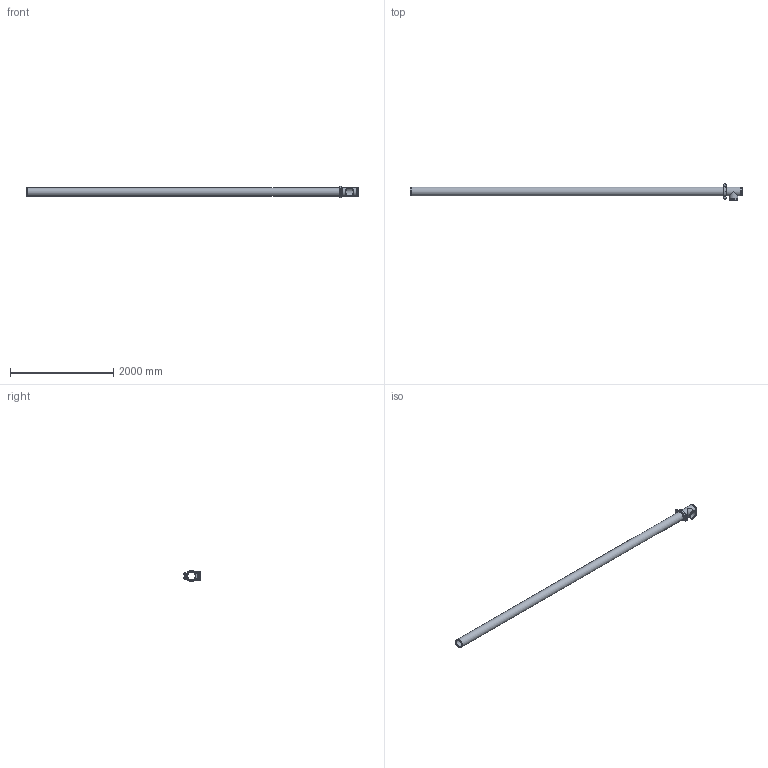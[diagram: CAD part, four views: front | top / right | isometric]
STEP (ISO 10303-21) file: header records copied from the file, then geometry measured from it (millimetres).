
FILE_DESCRIPTION(/* description */ ('VIC LONG RUN FITTING No R22 (OGS)','CAx-IF Rec.Pracs.---Representation and Presentation of Product Manufacturing Information (PMI)---4.0---2014-10-13'),/* implementation_level */ '2;1');
FILE_NAME(/* name */ 'C:\Users\Vjadhav\AppData\Roaming\Autodesk\ApplicationPlugins\Back Up\Victaulic_IPS_Long Run Fittings_No R22 (OGS)\Victaulic_IPS_Long Run Fittings_No R22 (OGS)_6 (150).stp',/* time_stamp */ '2020-10-14T10:37:58+05:00',/* author */ ('Vjadhav'),/* organization */ ('Victaulic'),/* preprocessor_version */ 'ST-DEVELOPER v17.2',/* originating_system */ 'Autodesk Inventor 2019',/* authorisation */ '');
FILE_SCHEMA (('AP242_MANAGED_MODEL_BASED_3D_ENGINEERING_MIM_LF { 1 0 10303 442 1 1 4 }'));
Length unit declared in the file: inch
Products named in the file (4): R22-06.0; 020-06.0; 177N-06.0; Pipe_R10-06.0
Assembly tree (3 placements, depth 2):
  R22-06.0
    020-06.0
    177N-06.0
    Pipe_R10-06.0
Bounding box: 6435.85 x 312.15 x 218.43 mm (x, y, z)
Volume: 24600009.2 mm3; surface area: 6757714.2 mm2
Topology: 3 solids, 3 shells, 122 faces, 323 edges, 222 vertices
Faces by surface type: plane 71, cylinder 41, cone 4, torus 4, sphere 2
Full cylindrical faces by diameter (mm): 19.05 x2, 37.694 x2, 154.051 x3, 155.575 x1, 163.957 x5, 168.275 x10
Entity records: 4247 total; most frequent: CARTESIAN_POINT 750, DIRECTION 711, ORIENTED_EDGE 654, EDGE_CURVE 327, AXIS2_PLACEMENT_3D 271, VERTEX_POINT 222, LINE 169, VECTOR 169
